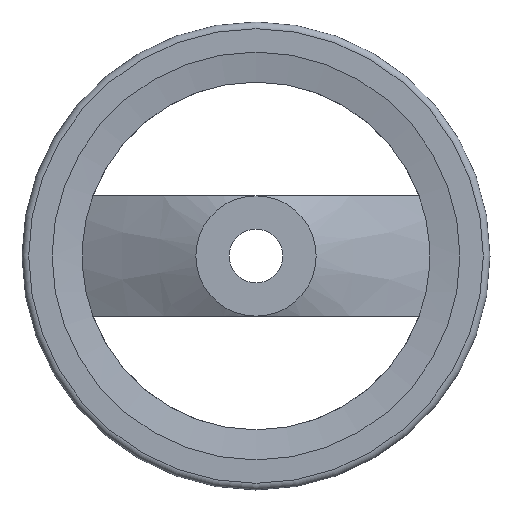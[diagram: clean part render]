
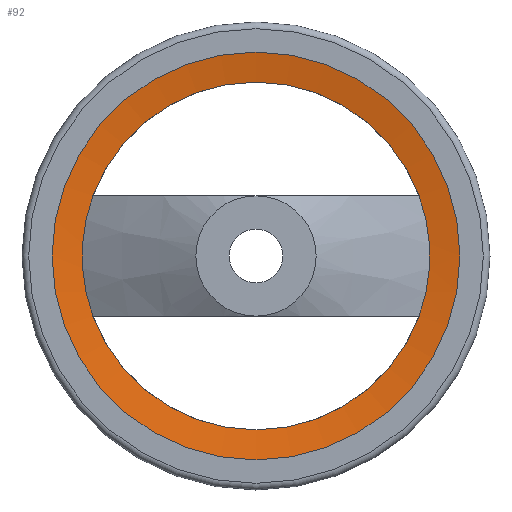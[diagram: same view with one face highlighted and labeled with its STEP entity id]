
A CAD part, left-side view. The second image highlights one B-rep face of the part: STEP entity #92.
In plain terms, the highlighted conical face has half-angle 80.399 degrees and reference radius 52 mm.
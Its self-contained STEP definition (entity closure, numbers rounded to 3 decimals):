
#92 = ADVANCED_FACE( '', ( #141, #142 ), #143, .F. );
#141 = FACE_OUTER_BOUND( '', #192, .T. );
#142 = FACE_BOUND( '', #193, .T. );
#143 = CONICAL_SURFACE( '', #194, 52., 1.403 );
#192 = EDGE_LOOP( '', ( #305 ) );
#193 = EDGE_LOOP( '', ( #306, #307, #308, #309 ) );
#194 = AXIS2_PLACEMENT_3D( '', #310, #311, #312 );
#305 = ORIENTED_EDGE( '', *, *, #344, .T. );
#306 = ORIENTED_EDGE( '', *, *, #332, .F. );
#307 = ORIENTED_EDGE( '', *, *, #350, .T. );
#308 = ORIENTED_EDGE( '', *, *, #338, .F. );
#309 = ORIENTED_EDGE( '', *, *, #349, .T. );
#310 = CARTESIAN_POINT( '', ( 21.022, 0., 0. ) );
#311 = DIRECTION( '', ( -1., 0., 0. ) );
#312 = DIRECTION( '', ( 0., 0., 1. ) );
#332 = EDGE_CURVE( '', #360, #366, #377, .T. );
#338 = EDGE_CURVE( '', #372, #354, #386, .T. );
#344 = EDGE_CURVE( '', #395, #395, #396, .T. );
#349 = EDGE_CURVE( '', #372, #366, #404, .F. );
#350 = EDGE_CURVE( '', #360, #354, #405, .F. );
#354 = VERTEX_POINT( '', #410 );
#360 = VERTEX_POINT( '', #453 );
#366 = VERTEX_POINT( '', #492 );
#372 = VERTEX_POINT( '', #535 );
#377 = CIRCLE( '', #573, 52. );
#386 = CIRCLE( '', #582, 52. );
#395 = VERTEX_POINT( '', #591 );
#396 = CIRCLE( '', #592, 61. );
#404 = CIRCLE( '', #600, 52. );
#405 = CIRCLE( '', #601, 52. );
#410 = CARTESIAN_POINT( '', ( 21.022, 48.785, -18. ) );
#453 = CARTESIAN_POINT( '', ( 21.022, -48.785, -18. ) );
#492 = CARTESIAN_POINT( '', ( 21.022, -48.785, 18. ) );
#535 = CARTESIAN_POINT( '', ( 21.022, 48.785, 18. ) );
#573 = AXIS2_PLACEMENT_3D( '', #609, #610, #611 );
#582 = AXIS2_PLACEMENT_3D( '', #627, #628, #629 );
#591 = CARTESIAN_POINT( '', ( 19.5, 0., 61. ) );
#592 = AXIS2_PLACEMENT_3D( '', #645, #646, #647 );
#600 = AXIS2_PLACEMENT_3D( '', #660, #661, #662 );
#601 = AXIS2_PLACEMENT_3D( '', #663, #664, #665 );
#609 = CARTESIAN_POINT( '', ( 21.022, 0., 0. ) );
#610 = DIRECTION( '', ( -1., 0., 0. ) );
#611 = DIRECTION( '', ( 0., 0., 1. ) );
#627 = CARTESIAN_POINT( '', ( 21.022, 0., 0. ) );
#628 = DIRECTION( '', ( -1., 0., 0. ) );
#629 = DIRECTION( '', ( 0., 0., 1. ) );
#645 = CARTESIAN_POINT( '', ( 19.5, 0., 0. ) );
#646 = DIRECTION( '', ( -1., 0., 0. ) );
#647 = DIRECTION( '', ( 0., 0., 1. ) );
#660 = CARTESIAN_POINT( '', ( 21.022, 0., 0. ) );
#661 = DIRECTION( '', ( -1., 0., 0. ) );
#662 = DIRECTION( '', ( 0., 0., 1. ) );
#663 = CARTESIAN_POINT( '', ( 21.022, 0., 0. ) );
#664 = DIRECTION( '', ( -1., 0., 0. ) );
#665 = DIRECTION( '', ( 0., 0., 1. ) );
